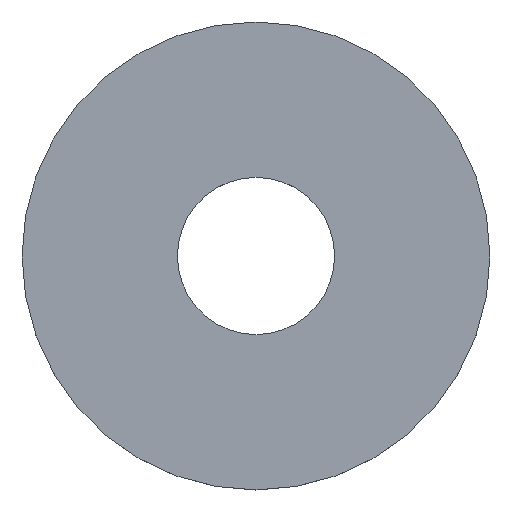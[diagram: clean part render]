
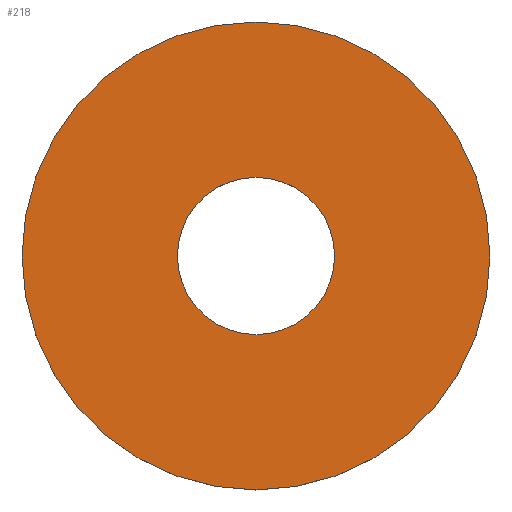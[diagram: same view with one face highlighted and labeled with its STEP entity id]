
A CAD part, top view. The second image highlights one B-rep face of the part: STEP entity #218.
In plain terms, the highlighted planar face has unit normal (0, 0, 1).
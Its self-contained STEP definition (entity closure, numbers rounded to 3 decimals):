
#10 = AXIS2_PLACEMENT_3D ( 'NONE', #190, #39, #42 ) ;
#16 = CARTESIAN_POINT ( 'NONE',  ( 0., 0., 0.75 ) ) ;
#17 = FACE_OUTER_BOUND ( 'NONE', #139, .T. ) ;
#21 = CARTESIAN_POINT ( 'NONE',  ( 4.2, 0., 0.75 ) ) ;
#25 = DIRECTION ( 'NONE',  ( 0., 0., 1. ) ) ;
#26 = CIRCLE ( 'NONE', #101, 4.2 ) ;
#29 = DIRECTION ( 'NONE',  ( 1., 0., 0. ) ) ;
#37 = CARTESIAN_POINT ( 'NONE',  ( -12.5, 0., 0.75 ) ) ;
#38 = CIRCLE ( 'NONE', #54, 4.2 ) ;
#39 = DIRECTION ( 'NONE',  ( 0., 0., 1. ) ) ;
#42 = DIRECTION ( 'NONE',  ( 1., 0., 0. ) ) ;
#54 = AXIS2_PLACEMENT_3D ( 'NONE', #220, #25, #29 ) ;
#61 = EDGE_CURVE ( 'NONE', #230, #241, #38, .T. ) ;
#83 = AXIS2_PLACEMENT_3D ( 'NONE', #232, #193, #119 ) ;
#99 = VERTEX_POINT ( 'NONE', #222 ) ;
#101 = AXIS2_PLACEMENT_3D ( 'NONE', #165, #126, #202 ) ;
#116 = EDGE_CURVE ( 'NONE', #241, #230, #26, .T. ) ;
#119 = DIRECTION ( 'NONE',  ( 1., 0., 0. ) ) ;
#120 = FACE_BOUND ( 'NONE', #171, .T. ) ;
#126 = DIRECTION ( 'NONE',  ( 0., 0., 1. ) ) ;
#133 = ORIENTED_EDGE ( 'NONE', *, *, #206, .T. ) ;
#134 = CARTESIAN_POINT ( 'NONE',  ( -4.2, 0., 0.75 ) ) ;
#137 = PLANE ( 'NONE',  #10 ) ;
#139 = EDGE_LOOP ( 'NONE', ( #133, #144 ) ) ;
#142 = DIRECTION ( 'NONE',  ( 1., 0., 0. ) ) ;
#144 = ORIENTED_EDGE ( 'NONE', *, *, #226, .T. ) ;
#151 = ORIENTED_EDGE ( 'NONE', *, *, #116, .F. ) ;
#158 = DIRECTION ( 'NONE',  ( 0., 0., 1. ) ) ;
#165 = CARTESIAN_POINT ( 'NONE',  ( 0., 0., 0.75 ) ) ;
#168 = CIRCLE ( 'NONE', #183, 12.5 ) ;
#171 = EDGE_LOOP ( 'NONE', ( #207, #151 ) ) ;
#183 = AXIS2_PLACEMENT_3D ( 'NONE', #16, #158, #142 ) ;
#190 = CARTESIAN_POINT ( 'NONE',  ( 0., 0., 0.75 ) ) ;
#191 = VERTEX_POINT ( 'NONE', #37 ) ;
#193 = DIRECTION ( 'NONE',  ( 0., 0., 1. ) ) ;
#202 = DIRECTION ( 'NONE',  ( 1., 0., 0. ) ) ;
#206 = EDGE_CURVE ( 'NONE', #191, #99, #216, .T. ) ;
#207 = ORIENTED_EDGE ( 'NONE', *, *, #61, .F. ) ;
#216 = CIRCLE ( 'NONE', #83, 12.5 ) ;
#218 = ADVANCED_FACE ( 'NONE', ( #17, #120 ), #137, .T. ) ;
#220 = CARTESIAN_POINT ( 'NONE',  ( 0., 0., 0.75 ) ) ;
#222 = CARTESIAN_POINT ( 'NONE',  ( 12.5, 0., 0.75 ) ) ;
#226 = EDGE_CURVE ( 'NONE', #99, #191, #168, .T. ) ;
#230 = VERTEX_POINT ( 'NONE', #134 ) ;
#232 = CARTESIAN_POINT ( 'NONE',  ( 0., 0., 0.75 ) ) ;
#241 = VERTEX_POINT ( 'NONE', #21 ) ;
